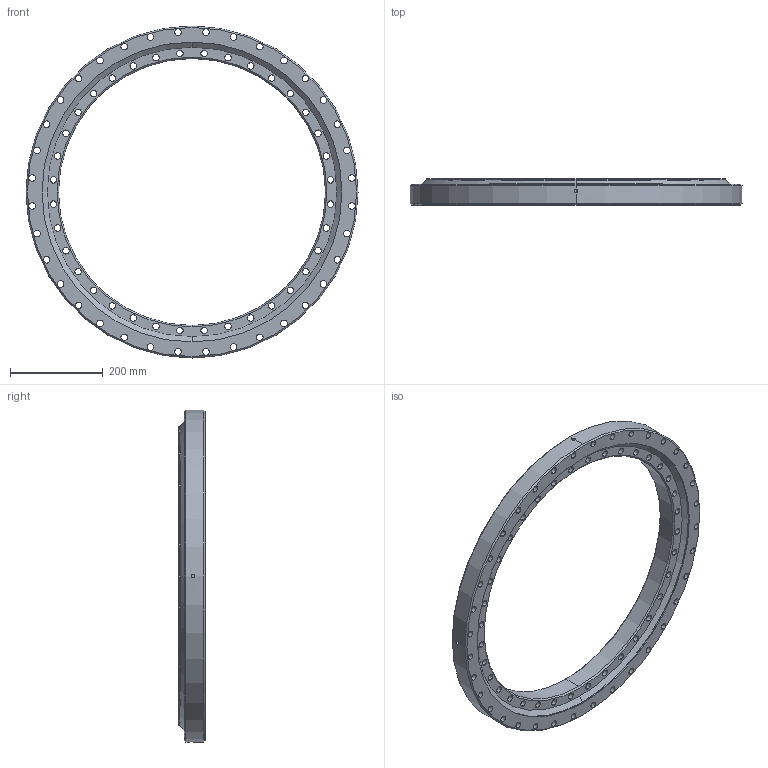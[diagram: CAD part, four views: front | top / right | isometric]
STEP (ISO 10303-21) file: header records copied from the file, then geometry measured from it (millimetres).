
FILE_DESCRIPTION (( 'STEP AP203' ), '1' );
FILE_NAME ('xsu140644.STEP', '2019-10-10T02:49:31', ( 'admin' ), ( '' ), 'SwSTEP 2.0', 'SolidWorks 2016', '' );
FILE_SCHEMA (( 'CONFIG_CONTROL_DESIGN' ));
Length unit declared in the file: millimetre
Products named in the file (1): xsu140644
Bounding box: 714 x 56 x 714 mm (x, y, z)
Volume: 5652053.5 mm3; surface area: 863677.1 mm2
Topology: 2 solids, 2 shells, 193 faces, 553 edges, 360 vertices
Faces by surface type: cylinder 168, cone 20, plane 5
Entity records: 7411 total; most frequent: CARTESIAN_POINT 1715, DIRECTION 1246, ORIENTED_EDGE 1106, EDGE_CURVE 553, AXIS2_PLACEMENT_3D 527, VERTEX_POINT 360, EDGE_LOOP 345, CIRCLE 333
